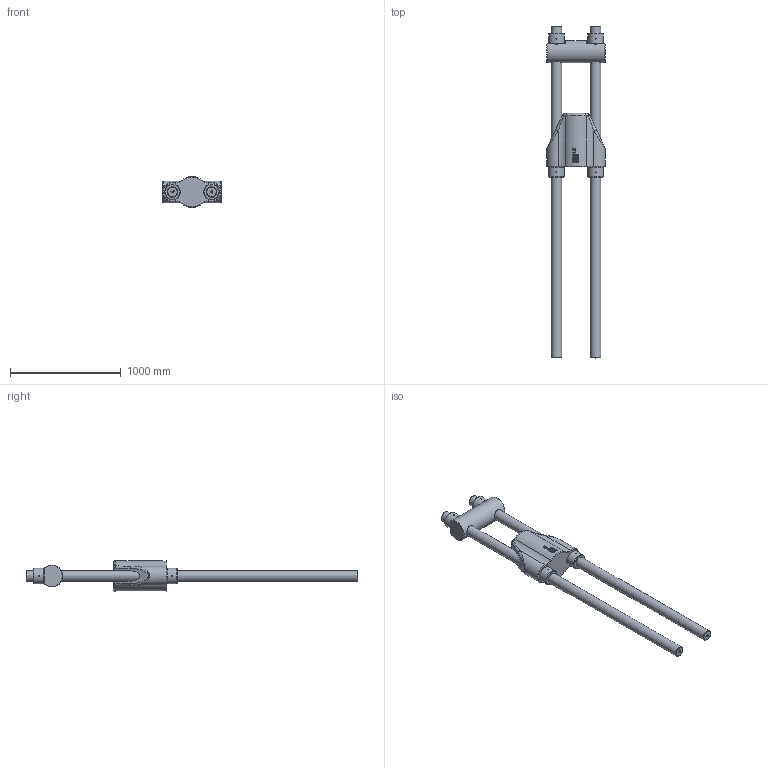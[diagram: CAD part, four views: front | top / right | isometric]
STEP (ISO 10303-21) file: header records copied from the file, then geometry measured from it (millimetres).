
FILE_DESCRIPTION(/* description */ (''),/* implementation_level */ '2;1');
FILE_NAME(/* name */ 'D:\Clienti\Redaelli (inventor)\BRC\STEP\Arrangemet\BRC088 72 111 0.stp',/* time_stamp */ '2021-05-08T08:36:31+02:00',/* author */ ('fabri'),/* organization */ (''),/* preprocessor_version */ 'ST-DEVELOPER v16.13',/* originating_system */ 'Autodesk Inventor 2018',/* authorisation */ '');
FILE_SCHEMA (('AUTOMOTIVE_DESIGN { 1 0 10303 214 3 1 1 }'));
Length unit declared in the file: millimetre
Products named in the file (5): BRC020 72 111 0; BRC020 71 112 0; BRC020 71 114 0_ROD; BRC020 71 113 0; BRC020 71 114 0_NUT
Assembly tree (8 placements, depth 2):
  BRC020 72 111 0
    BRC020 71 112 0
    BRC020 71 114 0_ROD  x2
    BRC020 71 113 0
    BRC020 71 114 0_NUT  x4
Bounding box: 530 x 3000 x 279.49 mm (x, y, z)
Volume: 96443016.5 mm3; surface area: 3509223.8 mm2
Topology: 8 solids, 8 shells, 1606 faces, 4274 edges, 2838 vertices
Faces by surface type: bspline 807, plane 674, cylinder 71, cone 30, torus 20, sphere 4
Full cylindrical faces by diameter (mm): 8 x16, 88.505 x4, 95 x2, 99 x4, 142.5 x4, 198 x1
Entity records: 32098 total; most frequent: CARTESIAN_POINT 13090, ORIENTED_EDGE 4586, DIRECTION 2527, EDGE_CURVE 2293, VERTEX_POINT 1528, LINE 1193, VECTOR 1193, EDGE_LOOP 993
